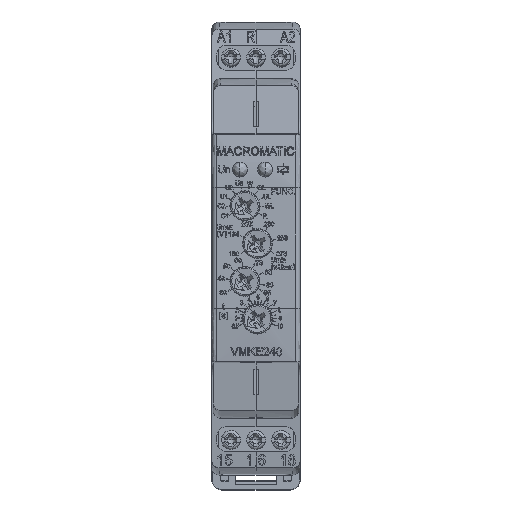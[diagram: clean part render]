
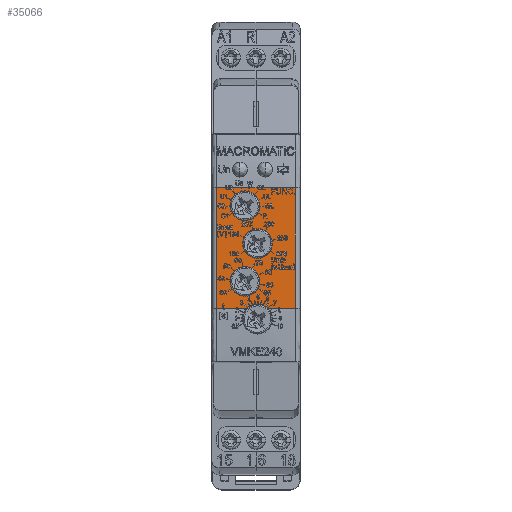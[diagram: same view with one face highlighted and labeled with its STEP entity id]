
A CAD part, top view. The second image highlights one B-rep face of the part: STEP entity #35066.
In plain terms, the highlighted planar face has unit normal (0, 0, 1).
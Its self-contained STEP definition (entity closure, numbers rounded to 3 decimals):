
#34467 = VERTEX_POINT('',#34468);
#34468 = CARTESIAN_POINT('',(-7.8,-12.15,
    64.));
#34567 = VERTEX_POINT('',#34568);
#34568 = CARTESIAN_POINT('',(-7.8,11.85,
    64.));
#34646 = EDGE_CURVE('',#34467,#34567,#34647,.T.);
#34647 = B_SPLINE_CURVE_WITH_KNOTS('',1,(#34648,#34649),.UNSPECIFIED.,
  .F.,.F.,(2,2),(-24.,0.),
  .PIECEWISE_BEZIER_KNOTS.);
#34648 = CARTESIAN_POINT('',(-7.8,-12.15,
    64.));
#34649 = CARTESIAN_POINT('',(-7.8,11.85,
    64.));
#34702 = VERTEX_POINT('',#34703);
#34703 = CARTESIAN_POINT('',(7.8,11.85,
    64.));
#34758 = EDGE_CURVE('',#34702,#34759,#34761,.T.);
#34759 = VERTEX_POINT('',#34760);
#34760 = CARTESIAN_POINT('',(7.8,-12.15,
    64.));
#34761 = B_SPLINE_CURVE_WITH_KNOTS('',1,(#34762,#34763),.UNSPECIFIED.,
  .F.,.F.,(2,2),(-24.,0.),
  .PIECEWISE_BEZIER_KNOTS.);
#34762 = CARTESIAN_POINT('',(7.8,11.85,
    64.));
#34763 = CARTESIAN_POINT('',(7.8,-12.15,
    64.));
#34861 = VERTEX_POINT('',#34862);
#34862 = CARTESIAN_POINT('',(2.407,-12.15,
    64.));
#34883 = VERTEX_POINT('',#34884);
#34884 = CARTESIAN_POINT('',(-1.807,-12.15,
    64.));
#34891 = EDGE_CURVE('',#34883,#34467,#34892,.T.);
#34892 = B_SPLINE_CURVE_WITH_KNOTS('',1,(#34893,#34894),.UNSPECIFIED.,
  .F.,.F.,(2,2),(16.133,22.126),
  .PIECEWISE_BEZIER_KNOTS.);
#34893 = CARTESIAN_POINT('',(-1.807,-12.15,
    64.));
#34894 = CARTESIAN_POINT('',(-7.8,-12.15,
    64.));
#34903 = EDGE_CURVE('',#34759,#34861,#34904,.T.);
#34904 = B_SPLINE_CURVE_WITH_KNOTS('',1,(#34905,#34906),.UNSPECIFIED.,
  .F.,.F.,(2,2),(6.526,11.918),
  .PIECEWISE_BEZIER_KNOTS.);
#34905 = CARTESIAN_POINT('',(7.8,-12.15,
    64.));
#34906 = CARTESIAN_POINT('',(2.407,-12.15,
    64.));
#35005 = EDGE_CURVE('',#34567,#34702,#35006,.T.);
#35006 = B_SPLINE_CURVE_WITH_KNOTS('',1,(#35007,#35008),.UNSPECIFIED.,
  .F.,.F.,(2,2),(-22.126,-6.526),
  .PIECEWISE_BEZIER_KNOTS.);
#35007 = CARTESIAN_POINT('',(-7.8,11.85,
    64.));
#35008 = CARTESIAN_POINT('',(7.8,11.85,
    64.));
#35066 = ADVANCED_FACE('',(#35067,#35082,#35104,#35126),#35148,.T.);
#35067 = FACE_BOUND('',#35068,.T.);
#35068 = EDGE_LOOP('',(#35069,#35077,#35078,#35079,#35080,#35081));
#35069 = ORIENTED_EDGE('',*,*,#35070,.T.);
#35070 = EDGE_CURVE('',#34883,#34861,#35071,.T.);
#35071 = ( BOUNDED_CURVE() B_SPLINE_CURVE(2,(#35072,#35073,#35074,#35075
,#35076),.UNSPECIFIED.,.F.,.F.) B_SPLINE_CURVE_WITH_KNOTS((3,2,3),(
2.331,4.673,7.015),.UNSPECIFIED.) CURVE() 
GEOMETRIC_REPRESENTATION_ITEM() RATIONAL_B_SPLINE_CURVE((1.,
0.924,1.,0.924,1.)) REPRESENTATION_ITEM('') );
#35072 = CARTESIAN_POINT('',(-1.807,-12.15,
    64.));
#35073 = CARTESIAN_POINT('',(-0.935,-11.275,
    64.));
#35074 = CARTESIAN_POINT('',(0.3,-11.275,
    64.));
#35075 = CARTESIAN_POINT('',(1.535,-11.275,
    64.));
#35076 = CARTESIAN_POINT('',(2.407,-12.15,
    64.));
#35077 = ORIENTED_EDGE('',*,*,#34903,.F.);
#35078 = ORIENTED_EDGE('',*,*,#34758,.F.);
#35079 = ORIENTED_EDGE('',*,*,#35005,.F.);
#35080 = ORIENTED_EDGE('',*,*,#34646,.F.);
#35081 = ORIENTED_EDGE('',*,*,#34891,.F.);
#35082 = FACE_BOUND('',#35083,.T.);
#35083 = EDGE_LOOP('',(#35084,#35096));
#35084 = ORIENTED_EDGE('',*,*,#35085,.T.);
#35085 = EDGE_CURVE('',#35086,#35088,#35090,.T.);
#35086 = VERTEX_POINT('',#35087);
#35087 = CARTESIAN_POINT('',(-5.175,-6.75,64.));
#35088 = VERTEX_POINT('',#35089);
#35089 = CARTESIAN_POINT('',(0.775,-6.75,64.));
#35090 = ( BOUNDED_CURVE() B_SPLINE_CURVE(2,(#35091,#35092,#35093,#35094
,#35095),.UNSPECIFIED.,.F.,.F.) B_SPLINE_CURVE_WITH_KNOTS((3,2,3),(0.,
4.673,9.346),.PIECEWISE_BEZIER_KNOTS.) CURVE() 
GEOMETRIC_REPRESENTATION_ITEM() RATIONAL_B_SPLINE_CURVE((1.,
0.707,1.,0.707,1.)) REPRESENTATION_ITEM('') );
#35091 = CARTESIAN_POINT('',(-5.175,-6.75,64.));
#35092 = CARTESIAN_POINT('',(-5.175,-3.775,64.));
#35093 = CARTESIAN_POINT('',(-2.2,-3.775,64.));
#35094 = CARTESIAN_POINT('',(0.775,-3.775,64.));
#35095 = CARTESIAN_POINT('',(0.775,-6.75,64.));
#35096 = ORIENTED_EDGE('',*,*,#35097,.T.);
#35097 = EDGE_CURVE('',#35088,#35086,#35098,.T.);
#35098 = ( BOUNDED_CURVE() B_SPLINE_CURVE(2,(#35099,#35100,#35101,#35102
,#35103),.UNSPECIFIED.,.F.,.F.) B_SPLINE_CURVE_WITH_KNOTS((3,2,3),(0.,
4.673,9.346),.PIECEWISE_BEZIER_KNOTS.) CURVE() 
GEOMETRIC_REPRESENTATION_ITEM() RATIONAL_B_SPLINE_CURVE((1.,
0.707,1.,0.707,1.)) REPRESENTATION_ITEM('') );
#35099 = CARTESIAN_POINT('',(0.775,-6.75,64.));
#35100 = CARTESIAN_POINT('',(0.775,-9.725,64.));
#35101 = CARTESIAN_POINT('',(-2.2,-9.725,64.));
#35102 = CARTESIAN_POINT('',(-5.175,-9.725,64.));
#35103 = CARTESIAN_POINT('',(-5.175,-6.75,64.));
#35104 = FACE_BOUND('',#35105,.T.);
#35105 = EDGE_LOOP('',(#35106,#35118));
#35106 = ORIENTED_EDGE('',*,*,#35107,.T.);
#35107 = EDGE_CURVE('',#35108,#35110,#35112,.T.);
#35108 = VERTEX_POINT('',#35109);
#35109 = CARTESIAN_POINT('',(-5.175,8.25,64.));
#35110 = VERTEX_POINT('',#35111);
#35111 = CARTESIAN_POINT('',(0.775,8.25,64.));
#35112 = ( BOUNDED_CURVE() B_SPLINE_CURVE(2,(#35113,#35114,#35115,#35116
,#35117),.UNSPECIFIED.,.F.,.F.) B_SPLINE_CURVE_WITH_KNOTS((3,2,3),(0.,
4.673,9.346),.PIECEWISE_BEZIER_KNOTS.) CURVE() 
GEOMETRIC_REPRESENTATION_ITEM() RATIONAL_B_SPLINE_CURVE((1.,
0.707,1.,0.707,1.)) REPRESENTATION_ITEM('') );
#35113 = CARTESIAN_POINT('',(-5.175,8.25,64.));
#35114 = CARTESIAN_POINT('',(-5.175,11.225,64.));
#35115 = CARTESIAN_POINT('',(-2.2,11.225,64.));
#35116 = CARTESIAN_POINT('',(0.775,11.225,64.));
#35117 = CARTESIAN_POINT('',(0.775,8.25,64.));
#35118 = ORIENTED_EDGE('',*,*,#35119,.T.);
#35119 = EDGE_CURVE('',#35110,#35108,#35120,.T.);
#35120 = ( BOUNDED_CURVE() B_SPLINE_CURVE(2,(#35121,#35122,#35123,#35124
,#35125),.UNSPECIFIED.,.F.,.F.) B_SPLINE_CURVE_WITH_KNOTS((3,2,3),(0.,
4.673,9.346),.PIECEWISE_BEZIER_KNOTS.) CURVE() 
GEOMETRIC_REPRESENTATION_ITEM() RATIONAL_B_SPLINE_CURVE((1.,
0.707,1.,0.707,1.)) REPRESENTATION_ITEM('') );
#35121 = CARTESIAN_POINT('',(0.775,8.25,64.));
#35122 = CARTESIAN_POINT('',(0.775,5.275,64.));
#35123 = CARTESIAN_POINT('',(-2.2,5.275,64.));
#35124 = CARTESIAN_POINT('',(-5.175,5.275,64.));
#35125 = CARTESIAN_POINT('',(-5.175,8.25,64.));
#35126 = FACE_BOUND('',#35127,.T.);
#35127 = EDGE_LOOP('',(#35128,#35140));
#35128 = ORIENTED_EDGE('',*,*,#35129,.T.);
#35129 = EDGE_CURVE('',#35130,#35132,#35134,.T.);
#35130 = VERTEX_POINT('',#35131);
#35131 = CARTESIAN_POINT('',(3.275,0.75,64.));
#35132 = VERTEX_POINT('',#35133);
#35133 = CARTESIAN_POINT('',(-2.675,0.75,64.));
#35134 = ( BOUNDED_CURVE() B_SPLINE_CURVE(2,(#35135,#35136,#35137,#35138
,#35139),.UNSPECIFIED.,.F.,.F.) B_SPLINE_CURVE_WITH_KNOTS((3,2,3),(0.,
4.673,9.346),.PIECEWISE_BEZIER_KNOTS.) CURVE() 
GEOMETRIC_REPRESENTATION_ITEM() RATIONAL_B_SPLINE_CURVE((1.,
0.707,1.,0.707,1.)) REPRESENTATION_ITEM('') );
#35135 = CARTESIAN_POINT('',(3.275,0.75,64.));
#35136 = CARTESIAN_POINT('',(3.275,-2.225,64.));
#35137 = CARTESIAN_POINT('',(0.3,-2.225,64.));
#35138 = CARTESIAN_POINT('',(-2.675,-2.225,64.));
#35139 = CARTESIAN_POINT('',(-2.675,0.75,64.));
#35140 = ORIENTED_EDGE('',*,*,#35141,.T.);
#35141 = EDGE_CURVE('',#35132,#35130,#35142,.T.);
#35142 = ( BOUNDED_CURVE() B_SPLINE_CURVE(2,(#35143,#35144,#35145,#35146
,#35147),.UNSPECIFIED.,.F.,.F.) B_SPLINE_CURVE_WITH_KNOTS((3,2,3),(0.,
4.673,9.346),.PIECEWISE_BEZIER_KNOTS.) CURVE() 
GEOMETRIC_REPRESENTATION_ITEM() RATIONAL_B_SPLINE_CURVE((1.,
0.707,1.,0.707,1.)) REPRESENTATION_ITEM('') );
#35143 = CARTESIAN_POINT('',(-2.675,0.75,64.));
#35144 = CARTESIAN_POINT('',(-2.675,3.725,64.));
#35145 = CARTESIAN_POINT('',(0.3,3.725,64.));
#35146 = CARTESIAN_POINT('',(3.275,3.725,64.));
#35147 = CARTESIAN_POINT('',(3.275,0.75,64.));
#35148 = PLANE('',#35149);
#35149 = AXIS2_PLACEMENT_3D('',#35150,#35151,#35152);
#35150 = CARTESIAN_POINT('',(9.48,-14.67,
    64.));
#35151 = DIRECTION('',(0.,0.,1.));
#35152 = DIRECTION('',(1.,0.,-0.));
